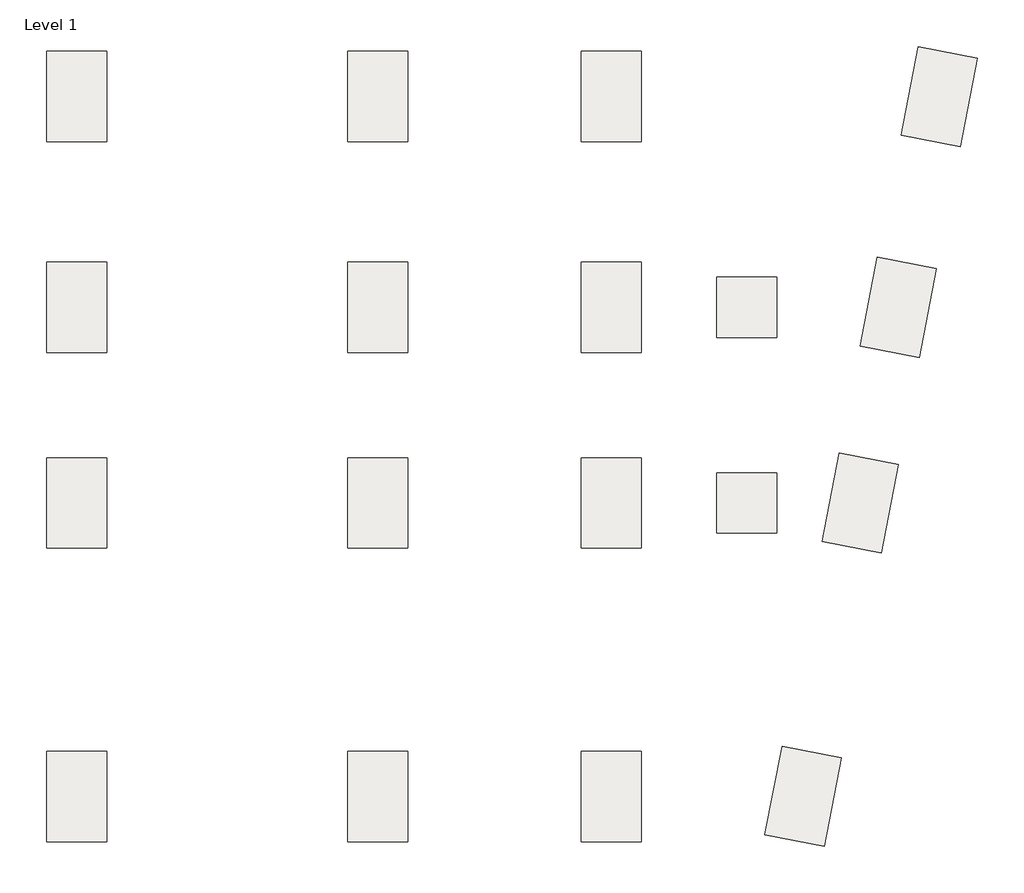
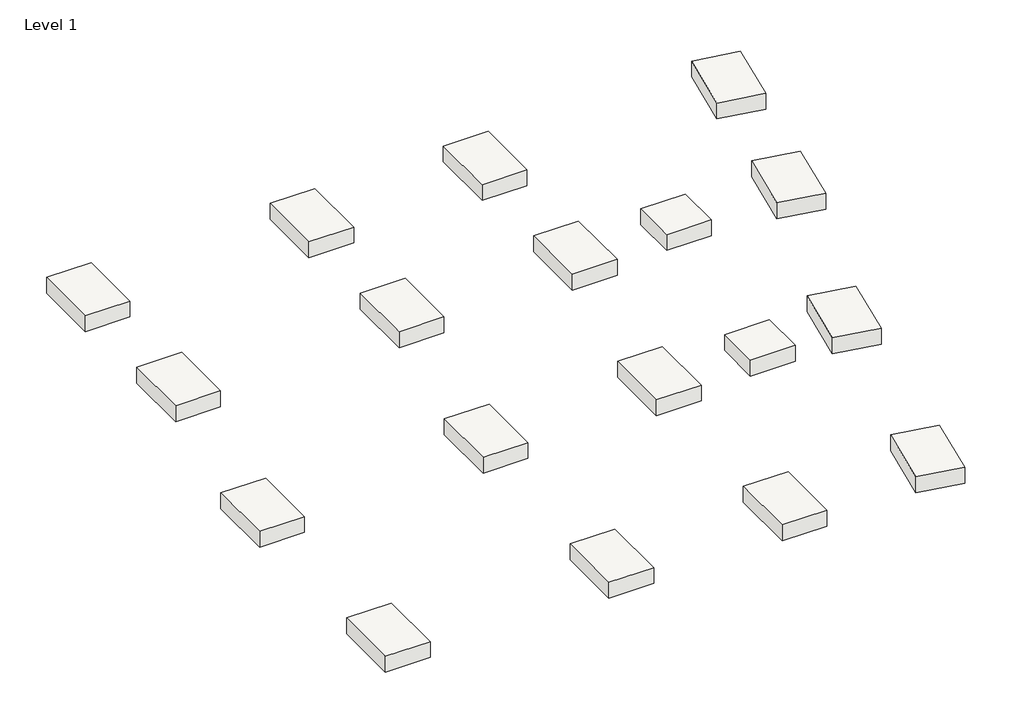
# One storey: 18 slabs.
"""IFC4 building model written with IfcOpenShell, lengths in millimetres."""

import ifcopenshell
import ifcopenshell.guid

model = None  # the IFC model being written
_history = None  # IfcOwnerHistory: only IFC2X3 demands one
_inside = {}  # id of a spatial element -> (the spatial element, [elements in it])
_under = {}  # id of a project, library or spatial element -> (it, [spatial elements below it])
_declared = {}  # id of a project -> (the project, [libraries it declares])
_typed = {}  # id of a type object -> (the type object, [elements of that type])
_made_of = {}  # id of a material, layer set ... -> (it, [elements and type objects made of it])


def new_model(schema):
    """Start an empty IFC model of exactly this schema.

    Asked for "IFC4X3", IfcOpenShell would pick the latest addendum, in which some entities
    have other attributes; the version numbers below select the first issue.
    IFC2X3 requires an IfcOwnerHistory on every rooted entity: one is made here for all.
    """
    global model, _history
    if schema == "IFC4X3":
        model = ifcopenshell.file(schema_version=(4, 3, 0, 0))
    else:
        model = ifcopenshell.file(schema=schema)
    _inside.clear()
    _under.clear()
    _declared.clear()
    _typed.clear()
    _made_of.clear()
    _history = None
    if model.schema == "IFC2X3":
        org = make("IfcOrganization", Name="unknown")
        user = make(
            "IfcPersonAndOrganization",
            ThePerson=make("IfcPerson", FamilyName="unknown"),
            TheOrganization=org,
        )
        app = make(
            "IfcApplication",
            ApplicationDeveloper=org,
            Version="unknown",
            ApplicationFullName="unknown",
            ApplicationIdentifier="unknown",
        )
        _history = make(
            "IfcOwnerHistory",
            OwningUser=user,
            OwningApplication=app,
            ChangeAction="ADDED",
            CreationDate=0,
        )
    return model


def make(cls, **values):
    """One entity of the class cls with the attributes given. An attribute that is None is left unset."""
    return model.create_entity(
        cls, **{name: value for name, value in values.items() if value is not None}
    )


def rooted(cls, **values):
    """An entity with a GlobalId (a new one), such as an element, a storey or a relation."""
    return make(cls, GlobalId=ifcopenshell.guid.new(), OwnerHistory=_history, **values)


def si_unit(unit_type, name, prefix=None):
    """IfcSIUnit, for example si_unit("LENGTHUNIT", "METRE", prefix="MILLI")."""
    return make("IfcSIUnit", UnitType=unit_type, Prefix=prefix, Name=name)


def assignment(units):
    """IfcUnitAssignment: the units of a project."""
    return None if units is None else make("IfcUnitAssignment", Units=units)


def point(xyz):
    """IfcCartesianPoint."""
    return None if xyz is None else make("IfcCartesianPoint", Coordinates=xyz)


def direction(xyz):
    """IfcDirection."""
    return None if xyz is None else make("IfcDirection", DirectionRatios=xyz)


def frame(location, z_axis=None, x_axis=None):
    """IfcAxis2Placement3D, a coordinate frame: its origin and axes. An axis left out is left unset."""
    return make(
        "IfcAxis2Placement3D",
        Location=point(location),
        Axis=direction(z_axis),
        RefDirection=direction(x_axis),
    )


def origin():
    """The frame at (0, 0, 0) with its axes left unset."""
    return frame((0.0, 0.0, 0.0))


def place(relative_to, where):
    """IfcLocalPlacement: puts the frame where relative to a parent placement (None: the world)."""
    return make(
        "IfcLocalPlacement", PlacementRelTo=relative_to, RelativePlacement=where
    )


def context(
    kind, dimensions, precision=None, world=None, true_north=None, identifier=None
):
    """IfcGeometricRepresentationContext, for example the 3D "Model" context."""
    return make(
        "IfcGeometricRepresentationContext",
        ContextIdentifier=identifier,
        ContextType=kind,
        CoordinateSpaceDimension=dimensions,
        Precision=precision,
        WorldCoordinateSystem=world,
        TrueNorth=true_north,
    )


def project(units=None, contexts=None):
    """IfcProject with its units and contexts."""
    return rooted(
        "IfcProject",
        Name="project",
        RepresentationContexts=contexts,
        UnitsInContext=assignment(units),
    )


def spatial(cls, under=None, at=None, **own):
    """A site, building, storey or space (cls), placed at a placement, below another one or the project."""
    s = rooted(cls, ObjectPlacement=at, **own)
    if under is not None:
        _under.setdefault(under.id(), (under, []))[1].append(s)
    return s


def polyline(points):
    """IfcPolyline through the points."""
    return make("IfcPolyline", Points=[point(p) for p in points])


def outline(outer, holes=None, kind="AREA"):
    """IfcArbitraryClosedProfileDef: a profile drawn as a closed curve; with holes, ...WithVoids."""
    if holes is None:
        return make("IfcArbitraryClosedProfileDef", ProfileType=kind, OuterCurve=outer)
    return make(
        "IfcArbitraryProfileDefWithVoids",
        ProfileType=kind,
        OuterCurve=outer,
        InnerCurves=holes,
    )


def extrude(swept, where, along, depth):
    """IfcExtrudedAreaSolid: the profile swept, set in the frame where, extruded along a direction by depth."""
    return make(
        "IfcExtrudedAreaSolid",
        SweptArea=swept,
        Position=where,
        ExtrudedDirection=direction(along),
        Depth=depth,
    )


def shape(context_of_items, identifier, shape_type, items):
    """IfcShapeRepresentation: the items that make up one representation, for example the "Body"."""
    return make(
        "IfcShapeRepresentation",
        ContextOfItems=context_of_items,
        RepresentationIdentifier=identifier,
        RepresentationType=shape_type,
        Items=items,
    )


def source(mapping_origin, context_of_items, identifier, shape_type, items):
    """IfcRepresentationMap: a shape defined once, which mapped items show again and again."""
    return make(
        "IfcRepresentationMap",
        MappingOrigin=mapping_origin,
        MappedRepresentation=shape(context_of_items, identifier, shape_type, items),
    )


def transform(
    local_origin,
    x_axis=None,
    y_axis=None,
    z_axis=None,
    scale=None,
    scale2=None,
    scale3=None,
    uniform=True,
):
    """IfcCartesianTransformationOperator3D, or its non-uniform kind. x_axis, y_axis, z_axis: its Axis1, 2, 3."""
    if uniform:
        return make(
            "IfcCartesianTransformationOperator3D",
            Axis1=direction(x_axis),
            Axis2=direction(y_axis),
            LocalOrigin=point(local_origin),
            Scale=scale,
            Axis3=direction(z_axis),
        )
    return make(
        "IfcCartesianTransformationOperator3DnonUniform",
        Axis1=direction(x_axis),
        Axis2=direction(y_axis),
        LocalOrigin=point(local_origin),
        Scale=scale,
        Axis3=direction(z_axis),
        Scale2=scale2,
        Scale3=scale3,
    )


def mapped(mapping_source, mapping_target):
    """IfcMappedItem: shows the shape of a source again, moved by a transform."""
    return make(
        "IfcMappedItem", MappingSource=mapping_source, MappingTarget=mapping_target
    )


def made_of(thing, what):
    """Note that an element or type object is made of a material, layer set ...; save() writes the relation."""
    if what is not None:
        _made_of.setdefault(what.id(), (what, []))[1].append(thing)
    return thing


def element(
    cls,
    number,
    at=None,
    inside=None,
    cuts=None,
    type_object=None,
    material=None,
    context=None,
    identifier="Body",
    shape_type=None,
    held_by="IfcProductDefinitionShape",
    body=None,
    shapes=None,
    **own,
):
    """One element of the class cls, such as IfcWall. Its Tag is "e" and its number.

    at: its placement. inside: the storey or other place that contains it. cuts: it is an
    opening in that element (IfcRelVoidsElement). A single representation is given by context,
    identifier, shape_type and body (its items); several are given by shapes. held_by: the class
    of the entity that holds the representations. save() writes the other relations.
    """
    e = rooted(cls, Tag="e%d" % number, ObjectPlacement=at, **own)
    if body is not None:
        shapes = [shape(context, identifier, shape_type, body)]
    if shapes is not None:
        e.Representation = make(held_by, Representations=shapes)
    if inside is not None:
        _inside.setdefault(inside.id(), (inside, []))[1].append(e)
    if cuts is not None:
        rooted(
            "IfcRelVoidsElement", RelatingBuildingElement=cuts, RelatedOpeningElement=e
        )
    if type_object is not None:
        _typed.setdefault(type_object.id(), (type_object, []))[1].append(e)
    return made_of(e, material)


def aggregate(whole, parts):
    """IfcRelAggregates: a whole, such as a stair, and the parts it consists of."""
    return rooted("IfcRelAggregates", RelatingObject=whole, RelatedObjects=parts)


def save(model, path):
    """Write the relations noted so far, then the file.

    IfcRelAggregates (storeys below a building ...), IfcRelContainedInSpatialStructure (elements
    in a storey), IfcRelDefinesByType, IfcRelAssociatesMaterial and IfcRelDeclares: one each for
    every whole, place, type object, material and project.
    """
    for whole, parts in _under.values():
        aggregate(whole, parts)
    for where, things in _inside.values():
        rooted(
            "IfcRelContainedInSpatialStructure",
            RelatedElements=things,
            RelatingStructure=where,
        )
    for kind, things in _typed.values():
        rooted("IfcRelDefinesByType", RelatedObjects=things, RelatingType=kind)
    for what, things in _made_of.values():
        rooted("IfcRelAssociatesMaterial", RelatedObjects=things, RelatingMaterial=what)
    for by, libraries in _declared.values():
        rooted("IfcRelDeclares", RelatingContext=by, RelatedDefinitions=libraries)
    model.write(path)


def slab_ae0d545e(model_context):
    return source(origin(), model_context, "Body", "SweptSolid", [
        extrude(outline(polyline([(609.6, 609.6), (609.6, -609.6), (-609.6, -609.6), (-609.6, 609.6), (609.6, 609.6)])), frame((0.0, 0.0, -457.2), z_axis=(0.0, 0.0, 1.0), x_axis=(1.0, 0.0, 0.0)), (0.0, 0.0, 1.0), 457.2),
    ])


def slab_5ba74754(model_context):
    return source(origin(), model_context, "Body", "SweptSolid", [
        extrude(outline(polyline([(609.6, 914.4), (609.6, -914.4), (-609.6, -914.4), (-609.6, 914.4), (609.6, 914.4)])), frame((0.0, 0.0, -457.2), z_axis=(0.0, 0.0, 1.0), x_axis=(1.0, 0.0, 0.0)), (0.0, 0.0, 1.0), 457.2),
    ])


model = new_model("IFC4")

# Units and contexts
model_context = context("Model", 3, world=origin())
ifc_project = project(units=[si_unit("LENGTHUNIT", "METRE", prefix="MILLI")], contexts=[model_context])

# Site, building, storey
site = spatial("IfcSite", under=ifc_project)
building = spatial("IfcBuilding", under=site)
storey = spatial("IfcBuildingStorey", under=building, Name="Level 1", Elevation=0.0)

# Slabs
placement = place(None, origin())
slab_shape = slab_ae0d545e(model_context)
element("IfcSlab", 1, ObjectType="Footing-Rectangular : 48\" x 48\" x 18\"", at=placement, inside=storey, context=model_context, shape_type="MappedRepresentation", body=[
    mapped(slab_shape, transform((13527.0949771, -4463.3366747, -1219.2), x_axis=(-1.0, 0.0, 0.0), y_axis=(0.0, -1.0, 0.0), z_axis=(0.0, 0.0, 1.0))),
])
element("IfcSlab", 2, ObjectType="Footing-Rectangular : 48\" x 48\" x 18\"", at=placement, inside=storey, context=model_context, shape_type="MappedRepresentation", body=[
    mapped(slab_shape, transform((13527.0949771, -8425.7366747, -2438.4), x_axis=(-1.0, 0.0, 0.0), y_axis=(0.0, -1.0, 0.0), z_axis=(0.0, 0.0, 1.0))),
])
slab_2_shape = slab_5ba74754(model_context)
element("IfcSlab", 3, ObjectType="Footing-Rectangular : 72\" x 48\" x 18\"", at=placement, inside=storey, context=model_context, shape_type="MappedRepresentation", body=[
    mapped(slab_2_shape, transform((-36.5050229, -196.1366747, -1219.2), x_axis=(-1.0, 0.0, 0.0), y_axis=(0.0, -1.0, 0.0), z_axis=(0.0, 0.0, 1.0))),
])
element("IfcSlab", 4, ObjectType="Footing-Rectangular : 72\" x 48\" x 18\"", at=placement, inside=storey, context=model_context, shape_type="MappedRepresentation", body=[
    mapped(slab_2_shape, transform((-36.5050229, -4463.3366747, -1219.2), x_axis=(-1.0, 0.0, 0.0), y_axis=(0.0, -1.0, 0.0), z_axis=(0.0, 0.0, 1.0))),
])
element("IfcSlab", 5, ObjectType="Footing-Rectangular : 72\" x 48\" x 18\"", at=placement, inside=storey, context=model_context, shape_type="MappedRepresentation", body=[
    mapped(slab_2_shape, transform((-36.5050229, -8425.7366747, -2438.4), x_axis=(-1.0, 0.0, 0.0), y_axis=(0.0, -1.0, 0.0), z_axis=(0.0, 0.0, 1.0))),
])
element("IfcSlab", 6, ObjectType="Footing-Rectangular : 72\" x 48\" x 18\"", at=placement, inside=storey, context=model_context, shape_type="MappedRepresentation", body=[
    mapped(slab_2_shape, transform((-36.5050229, -14369.3366747, -2438.4), x_axis=(-1.0, 0.0, 0.0), y_axis=(0.0, -1.0, 0.0), z_axis=(0.0, 0.0, 1.0))),
])
element("IfcSlab", 7, ObjectType="Footing-Rectangular : 72\" x 48\" x 18\"", at=placement, inside=storey, context=model_context, shape_type="MappedRepresentation", body=[
    mapped(slab_2_shape, transform((6059.4949771, -196.1366747, -1219.2), x_axis=(-1.0, 0.0, 0.0), y_axis=(0.0, -1.0, 0.0), z_axis=(0.0, 0.0, 1.0))),
])
element("IfcSlab", 8, ObjectType="Footing-Rectangular : 72\" x 48\" x 18\"", at=placement, inside=storey, context=model_context, shape_type="MappedRepresentation", body=[
    mapped(slab_2_shape, transform((6059.4949771, -4463.3366747, -1219.2), x_axis=(-1.0, 0.0, 0.0), y_axis=(0.0, -1.0, 0.0), z_axis=(0.0, 0.0, 1.0))),
])
element("IfcSlab", 9, ObjectType="Footing-Rectangular : 72\" x 48\" x 18\"", at=placement, inside=storey, context=model_context, shape_type="MappedRepresentation", body=[
    mapped(slab_2_shape, transform((6059.4949771, -8425.7366747, -2438.4), x_axis=(-1.0, 0.0, 0.0), y_axis=(0.0, -1.0, 0.0), z_axis=(0.0, 0.0, 1.0))),
])
element("IfcSlab", 10, ObjectType="Footing-Rectangular : 72\" x 48\" x 18\"", at=placement, inside=storey, context=model_context, shape_type="MappedRepresentation", body=[
    mapped(slab_2_shape, transform((6059.4949771, -14369.3366747, -2438.4), x_axis=(-1.0, 0.0, 0.0), y_axis=(0.0, -1.0, 0.0), z_axis=(0.0, 0.0, 1.0))),
])
element("IfcSlab", 11, ObjectType="Footing-Rectangular : 72\" x 48\" x 18\"", at=placement, inside=storey, context=model_context, shape_type="MappedRepresentation", body=[
    mapped(slab_2_shape, transform((10783.8949771, -196.1366747, -1219.2), x_axis=(-1.0, 0.0, 0.0), y_axis=(0.0, -1.0, 0.0), z_axis=(0.0, 0.0, 1.0))),
])
element("IfcSlab", 12, ObjectType="Footing-Rectangular : 72\" x 48\" x 18\"", at=placement, inside=storey, context=model_context, shape_type="MappedRepresentation", body=[
    mapped(slab_2_shape, transform((10783.8949771, -4463.3366747, -1219.2), x_axis=(-1.0, 0.0, 0.0), y_axis=(0.0, -1.0, 0.0), z_axis=(0.0, 0.0, 1.0))),
])
element("IfcSlab", 13, ObjectType="Footing-Rectangular : 72\" x 48\" x 18\"", at=placement, inside=storey, context=model_context, shape_type="MappedRepresentation", body=[
    mapped(slab_2_shape, transform((10783.8949771, -8425.7366747, -2438.4), x_axis=(-1.0, 0.0, 0.0), y_axis=(0.0, -1.0, 0.0), z_axis=(0.0, 0.0, 1.0))),
])
element("IfcSlab", 14, ObjectType="Footing-Rectangular : 72\" x 48\" x 18\"", at=placement, inside=storey, context=model_context, shape_type="MappedRepresentation", body=[
    mapped(slab_2_shape, transform((10783.8949771, -14369.3366747, -2438.4), x_axis=(-1.0, 0.0, 0.0), y_axis=(0.0, -1.0, 0.0), z_axis=(0.0, 0.0, 1.0))),
])
element("IfcSlab", 15, ObjectType="Footing-Rectangular : 72\" x 48\" x 18\"", at=placement, inside=storey, context=model_context, shape_type="MappedRepresentation", body=[
    mapped(slab_2_shape, transform((17423.8615645, -196.1366747, -1219.2), x_axis=(-0.9816271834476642, 0.19080899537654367, 0.0), y_axis=(-0.19080899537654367, -0.9816271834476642, 0.0), z_axis=(0.0, 0.0, 1.0))),
])
element("IfcSlab", 16, ObjectType="Footing-Rectangular : 72\" x 48\" x 18\"", at=placement, inside=storey, context=model_context, shape_type="MappedRepresentation", body=[
    mapped(slab_2_shape, transform((16594.4019093, -4463.3366747, -1219.2), x_axis=(-0.9816271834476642, 0.1908089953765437, 0.0), y_axis=(-0.1908089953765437, -0.9816271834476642, 0.0), z_axis=(0.0, 0.0, 1.0))),
])
element("IfcSlab", 17, ObjectType="Footing-Rectangular : 72\" x 48\" x 18\"", at=placement, inside=storey, context=model_context, shape_type="MappedRepresentation", body=[
    mapped(slab_2_shape, transform((15824.1893724, -8425.7366747, -2438.4), x_axis=(-0.9816271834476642, 0.1908089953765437, 0.0), y_axis=(-0.1908089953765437, -0.9816271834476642, 0.0), z_axis=(0.0, 0.0, 1.0))),
])
element("IfcSlab", 18, ObjectType="Footing-Rectangular : 72\" x 48\" x 18\"", at=placement, inside=storey, context=model_context, shape_type="MappedRepresentation", body=[
    mapped(slab_2_shape, transform((14668.870567, -14369.3366747, -2438.4), x_axis=(-0.9816271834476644, 0.1908089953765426, 0.0), y_axis=(-0.1908089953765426, -0.9816271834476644, 0.0), z_axis=(0.0, 0.0, 1.0))),
])

save(model, "model.ifc")
